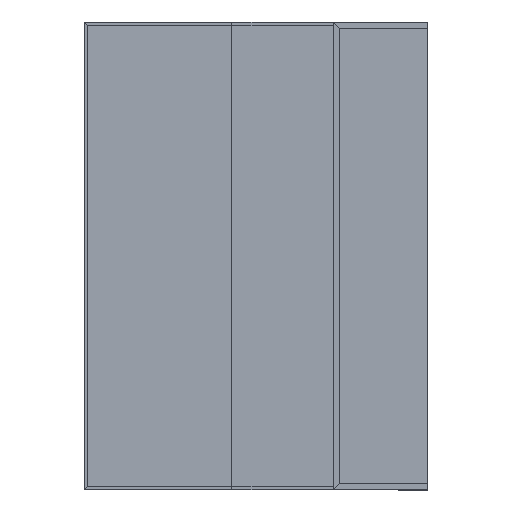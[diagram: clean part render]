
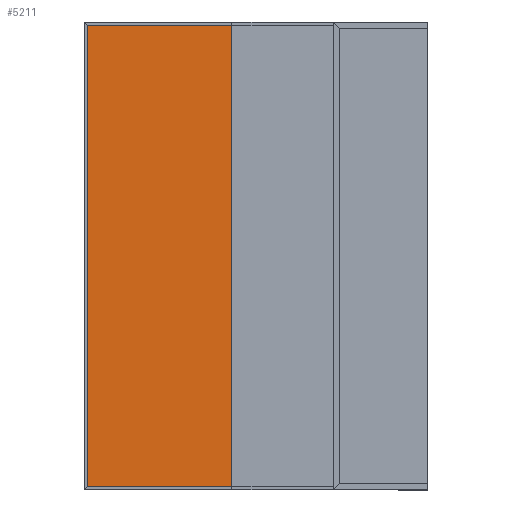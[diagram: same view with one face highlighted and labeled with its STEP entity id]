
A CAD part, left-side view. The second image highlights one B-rep face of the part: STEP entity #5211.
In plain terms, the highlighted planar face has unit normal (-1, 0, 0) as drawn and (0, 0, -1) by its records, which use the part's own axes.
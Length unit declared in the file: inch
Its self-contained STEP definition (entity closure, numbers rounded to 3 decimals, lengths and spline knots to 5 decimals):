
#1191=FACE_OUTER_BOUND('',#1465,.T.);
#1465=EDGE_LOOP('',(#4520,#4521,#4522,#4523));
#1974=LINE('',#8647,#2536);
#1975=LINE('',#8650,#2537);
#1978=LINE('',#8656,#2540);
#1979=LINE('',#8657,#2541);
#2536=VECTOR('',#6831,0.3937);
#2537=VECTOR('',#6834,0.3937);
#2540=VECTOR('',#6839,0.3937);
#2541=VECTOR('',#6840,0.3937);
#2947=VERTEX_POINT('',#8640);
#2950=VERTEX_POINT('',#8645);
#2951=VERTEX_POINT('',#8649);
#2953=VERTEX_POINT('',#8655);
#3482=EDGE_CURVE('',#2950,#2947,#1974,.T.);
#3483=EDGE_CURVE('',#2947,#2951,#1975,.T.);
#3486=EDGE_CURVE('',#2953,#2950,#1978,.T.);
#3487=EDGE_CURVE('',#2951,#2953,#1979,.T.);
#4520=ORIENTED_EDGE('',*,*,#3482,.F.);
#4521=ORIENTED_EDGE('',*,*,#3486,.F.);
#4522=ORIENTED_EDGE('',*,*,#3487,.F.);
#4523=ORIENTED_EDGE('',*,*,#3483,.F.);
#4939=PLANE('',#5806);
#5211=ADVANCED_FACE('',(#1191),#4939,.T.);
#5806=AXIS2_PLACEMENT_3D('',#8654,#6837,#6838);
#6831=DIRECTION('',(0.,1.,0.));
#6834=DIRECTION('',(-1.,0.,0.));
#6837=DIRECTION('center_axis',(0.,0.,-1.));
#6838=DIRECTION('ref_axis',(0.,1.,0.));
#6839=DIRECTION('',(1.,0.,0.));
#6840=DIRECTION('',(0.,-1.,0.));
#8640=CARTESIAN_POINT('',(113.25,35.25,-0.75));
#8645=CARTESIAN_POINT('',(113.25,0.,-0.75));
#8647=CARTESIAN_POINT('',(113.25,9.,-0.75));
#8649=CARTESIAN_POINT('',(0.75,35.25,-0.75));
#8650=CARTESIAN_POINT('',(0.,35.25,-0.75));
#8654=CARTESIAN_POINT('Origin',(0.,0.,-0.75));
#8655=CARTESIAN_POINT('',(0.75,0.,-0.75));
#8656=CARTESIAN_POINT('',(0.,0.,-0.75));
#8657=CARTESIAN_POINT('',(0.75,9.,-0.75));
